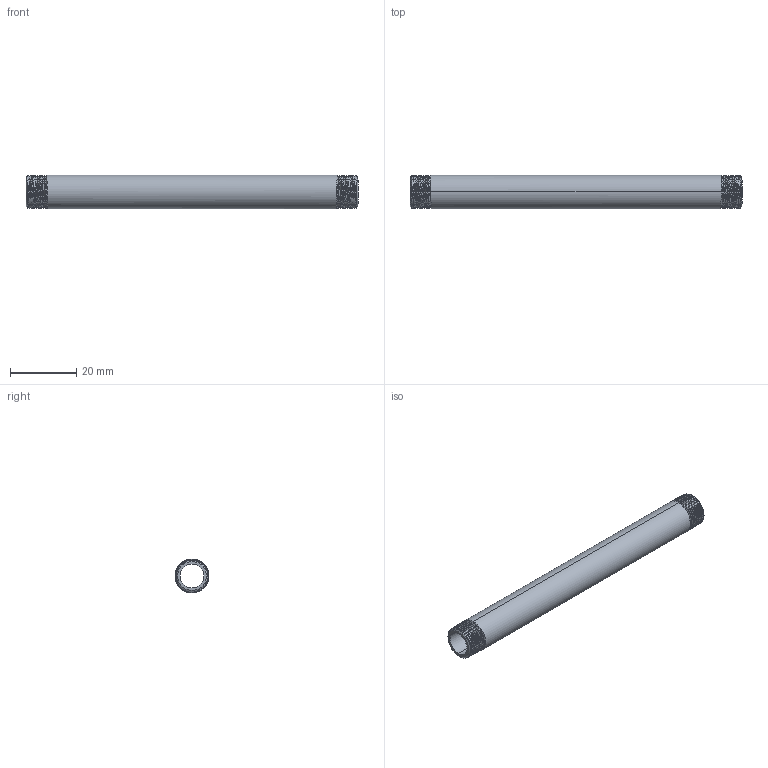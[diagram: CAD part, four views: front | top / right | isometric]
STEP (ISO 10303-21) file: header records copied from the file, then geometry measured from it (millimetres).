
FILE_DESCRIPTION (( 'STEP AP203' ), '1' );
FILE_NAME ('3D_R210_1-8x100_17185100.STEP', '2024-08-16T10:35:49', ( '' ), ( '' ), 'SwSTEP 2.0', 'SolidWorks 2024', '' );
FILE_SCHEMA (( 'CONFIG_CONTROL_DESIGN' ));
Length unit declared in the file: millimetre
Products named in the file (1): 3D_R210_1-8x100_17185100
Bounding box: 100 x 10.2 x 10.2 mm (x, y, z)
Volume: 4011.5 mm3; surface area: 5679.7 mm2
Topology: 1 solids, 1 shells, 54 faces, 150 edges, 98 vertices
Faces by surface type: cone 40, bspline 6, cylinder 4, plane 4
Entity records: 6878 total; most frequent: CARTESIAN_POINT 5622, ORIENTED_EDGE 300, DIRECTION 166, EDGE_CURVE 150, VERTEX_POINT 98, B_SPLINE_CURVE_WITH_KNOTS 86, AXIS2_PLACEMENT_3D 61, EDGE_LOOP 56
